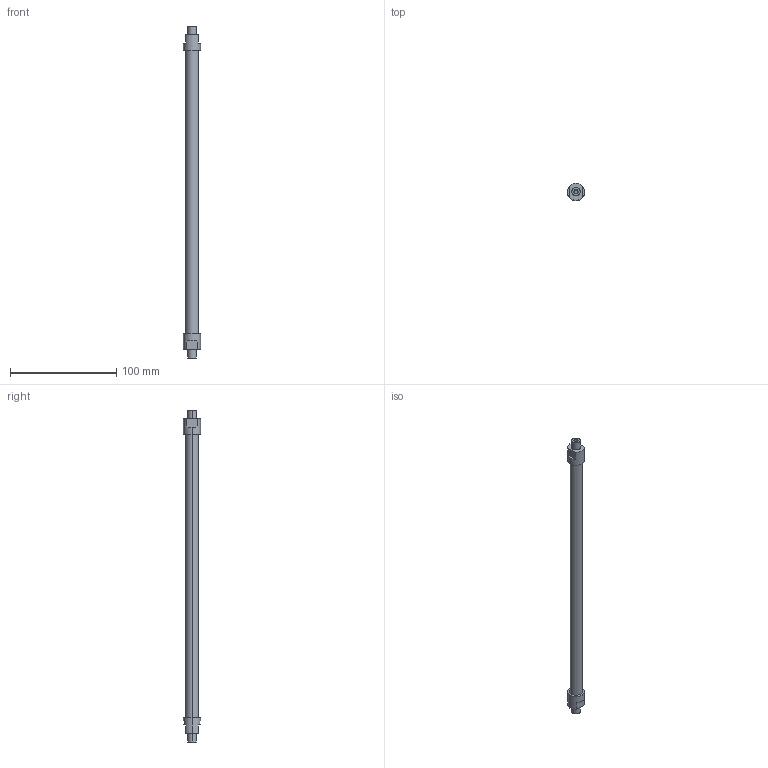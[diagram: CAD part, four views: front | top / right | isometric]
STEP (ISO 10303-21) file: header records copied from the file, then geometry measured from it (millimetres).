
FILE_DESCRIPTION(('STEP AP214'),'1');
FILE_NAME('ETT-R025G305.stp','2015-02-03T08:46:18',(' '),(' '),'Spatial InterOp 3D',' ',' ');
FILE_SCHEMA(('automotive_design'));
Length unit declared in the file: metre
Products named in the file (2): 1; 2
Bounding box: 16 x 16 x 312 mm (x, y, z)
Volume: 36245.3 mm3; surface area: 12868.5 mm2
Topology: 1 solids, 4 shells, 33 faces, 78 edges, 56 vertices
Faces by surface type: plane 17, cylinder 16
Entity records: 1292 total; most frequent: DIRECTION 192, CARTESIAN_POINT 169, ORIENTED_EDGE 144, AXIS2_PLACEMENT_3D 79, EDGE_CURVE 78, VERTEX_POINT 56, CIRCLE 44, EDGE_LOOP 40
